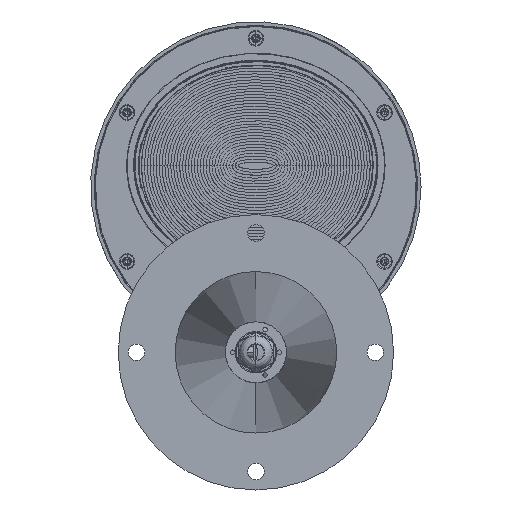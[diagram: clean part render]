
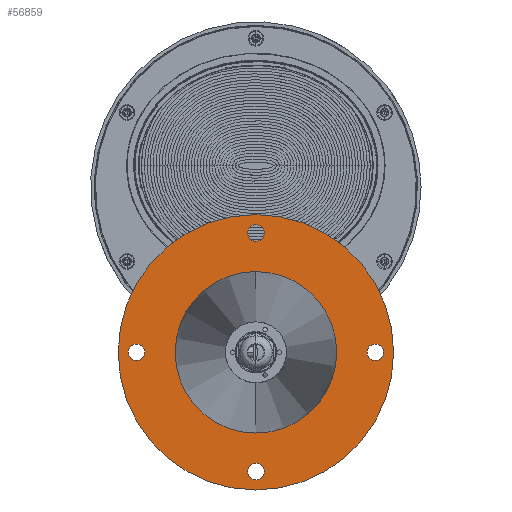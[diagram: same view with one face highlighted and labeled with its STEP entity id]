
A CAD part, front view. The second image highlights one B-rep face of the part: STEP entity #56859.
In plain terms, the highlighted planar face has unit normal (0, -1, 0) as drawn and (0, 0, -1) by its records, which use the part's own axes.
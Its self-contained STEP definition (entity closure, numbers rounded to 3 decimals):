
#56602=CARTESIAN_POINT('',(0.,0.,-457.983));
#56603=DIRECTION('',(0.,0.,-1.));
#56604=DIRECTION('',(1.,0.,0.));
#56605=AXIS2_PLACEMENT_3D('',#56602,#56603,#56604);
#56607=CARTESIAN_POINT('',(0.,0.,-457.983));
#56608=DIRECTION('',(0.,0.,-1.));
#56609=DIRECTION('',(-1.,0.,0.));
#56610=AXIS2_PLACEMENT_3D('',#56607,#56608,#56609);
#56612=CARTESIAN_POINT('',(0.,0.,-457.983));
#56613=DIRECTION('',(0.,0.,1.));
#56614=DIRECTION('',(-1.,0.,0.));
#56615=AXIS2_PLACEMENT_3D('',#56612,#56613,#56614);
#56617=CARTESIAN_POINT('',(0.,0.,-457.983));
#56618=DIRECTION('',(0.,0.,1.));
#56619=DIRECTION('',(1.,0.,0.));
#56620=AXIS2_PLACEMENT_3D('',#56617,#56618,#56619);
#56622=CARTESIAN_POINT('',(65.,0.,-457.983));
#56623=DIRECTION('',(0.,0.,1.));
#56624=DIRECTION('',(1.,0.,0.));
#56625=AXIS2_PLACEMENT_3D('',#56622,#56623,#56624);
#56627=CARTESIAN_POINT('',(65.,0.,-457.983));
#56628=DIRECTION('',(0.,0.,1.));
#56629=DIRECTION('',(-1.,0.,0.));
#56630=AXIS2_PLACEMENT_3D('',#56627,#56628,#56629);
#56632=CARTESIAN_POINT('',(0.,65.,-457.983));
#56633=DIRECTION('',(0.,0.,1.));
#56634=DIRECTION('',(1.,0.,0.));
#56635=AXIS2_PLACEMENT_3D('',#56632,#56633,#56634);
#56637=CARTESIAN_POINT('',(0.,65.,-457.983));
#56638=DIRECTION('',(0.,0.,1.));
#56639=DIRECTION('',(-1.,0.,0.));
#56640=AXIS2_PLACEMENT_3D('',#56637,#56638,#56639);
#56642=CARTESIAN_POINT('',(-65.,0.,-457.983));
#56643=DIRECTION('',(0.,0.,1.));
#56644=DIRECTION('',(1.,0.,0.));
#56645=AXIS2_PLACEMENT_3D('',#56642,#56643,#56644);
#56647=CARTESIAN_POINT('',(-65.,0.,-457.983));
#56648=DIRECTION('',(0.,0.,1.));
#56649=DIRECTION('',(-1.,0.,0.));
#56650=AXIS2_PLACEMENT_3D('',#56647,#56648,#56649);
#56652=CARTESIAN_POINT('',(0.,-65.,-457.983));
#56653=DIRECTION('',(0.,0.,1.));
#56654=DIRECTION('',(1.,0.,0.));
#56655=AXIS2_PLACEMENT_3D('',#56652,#56653,#56654);
#56657=CARTESIAN_POINT('',(0.,-65.,-457.983));
#56658=DIRECTION('',(0.,0.,1.));
#56659=DIRECTION('',(-1.,0.,0.));
#56660=AXIS2_PLACEMENT_3D('',#56657,#56658,#56659);
#56774=CARTESIAN_POINT('',(-75.,0.,-457.983));
#56775=CARTESIAN_POINT('',(75.,0.,-457.983));
#56776=VERTEX_POINT('',#56774);
#56777=VERTEX_POINT('',#56775);
#56782=CARTESIAN_POINT('',(-43.996,0.,-457.983));
#56783=VERTEX_POINT('',#56782);
#56784=CARTESIAN_POINT('',(43.996,0.,-457.983));
#56785=VERTEX_POINT('',#56784);
#56802=CARTESIAN_POINT('',(69.5,0.,-457.983));
#56803=CARTESIAN_POINT('',(60.5,0.,-457.983));
#56804=VERTEX_POINT('',#56802);
#56805=VERTEX_POINT('',#56803);
#56806=CARTESIAN_POINT('',(4.5,65.,-457.983));
#56807=CARTESIAN_POINT('',(-4.5,65.,-457.983));
#56808=VERTEX_POINT('',#56806);
#56809=VERTEX_POINT('',#56807);
#56810=CARTESIAN_POINT('',(-60.5,0.,-457.983));
#56811=CARTESIAN_POINT('',(-69.5,0.,-457.983));
#56812=VERTEX_POINT('',#56810);
#56813=VERTEX_POINT('',#56811);
#56814=CARTESIAN_POINT('',(4.5,-65.,-457.983));
#56815=CARTESIAN_POINT('',(-4.5,-65.,-457.983));
#56816=VERTEX_POINT('',#56814);
#56817=VERTEX_POINT('',#56815);
#56818=CARTESIAN_POINT('',(0.,0.,-457.983));
#56819=DIRECTION('',(0.,0.,-1.));
#56820=DIRECTION('',(-1.,0.,0.));
#56821=AXIS2_PLACEMENT_3D('',#56818,#56819,#56820);
#56822=PLANE('',#56821);
#56824=ORIENTED_EDGE('',*,*,#56823,.F.);
#56826=ORIENTED_EDGE('',*,*,#56825,.F.);
#56827=EDGE_LOOP('',(#56824,#56826));
#56828=FACE_OUTER_BOUND('',#56827,.F.);
#56830=ORIENTED_EDGE('',*,*,#56829,.F.);
#56832=ORIENTED_EDGE('',*,*,#56831,.F.);
#56833=EDGE_LOOP('',(#56830,#56832));
#56834=FACE_BOUND('',#56833,.F.);
#56836=ORIENTED_EDGE('',*,*,#56835,.F.);
#56838=ORIENTED_EDGE('',*,*,#56837,.F.);
#56839=EDGE_LOOP('',(#56836,#56838));
#56840=FACE_BOUND('',#56839,.F.);
#56842=ORIENTED_EDGE('',*,*,#56841,.F.);
#56844=ORIENTED_EDGE('',*,*,#56843,.F.);
#56845=EDGE_LOOP('',(#56842,#56844));
#56846=FACE_BOUND('',#56845,.F.);
#56848=ORIENTED_EDGE('',*,*,#56847,.F.);
#56850=ORIENTED_EDGE('',*,*,#56849,.F.);
#56851=EDGE_LOOP('',(#56848,#56850));
#56852=FACE_BOUND('',#56851,.F.);
#56854=ORIENTED_EDGE('',*,*,#56853,.F.);
#56856=ORIENTED_EDGE('',*,*,#56855,.F.);
#56857=EDGE_LOOP('',(#56854,#56856));
#56858=FACE_BOUND('',#56857,.F.);
#56859=ADVANCED_FACE('',(#56828,#56834,#56840,#56846,#56852,#56858),#56822,.T.);
#56606=CIRCLE('',#56605,75.);
#56611=CIRCLE('',#56610,75.);
#56616=CIRCLE('',#56615,43.996);
#56621=CIRCLE('',#56620,43.996);
#56626=CIRCLE('',#56625,4.5);
#56631=CIRCLE('',#56630,4.5);
#56636=CIRCLE('',#56635,4.5);
#56641=CIRCLE('',#56640,4.5);
#56646=CIRCLE('',#56645,4.5);
#56651=CIRCLE('',#56650,4.5);
#56656=CIRCLE('',#56655,4.5);
#56661=CIRCLE('',#56660,4.5);
#56823=EDGE_CURVE('',#56777,#56776,#56606,.T.);
#56825=EDGE_CURVE('',#56776,#56777,#56611,.T.);
#56829=EDGE_CURVE('',#56783,#56785,#56616,.T.);
#56831=EDGE_CURVE('',#56785,#56783,#56621,.T.);
#56835=EDGE_CURVE('',#56804,#56805,#56626,.T.);
#56837=EDGE_CURVE('',#56805,#56804,#56631,.T.);
#56841=EDGE_CURVE('',#56808,#56809,#56636,.T.);
#56843=EDGE_CURVE('',#56809,#56808,#56641,.T.);
#56847=EDGE_CURVE('',#56812,#56813,#56646,.T.);
#56849=EDGE_CURVE('',#56813,#56812,#56651,.T.);
#56853=EDGE_CURVE('',#56816,#56817,#56656,.T.);
#56855=EDGE_CURVE('',#56817,#56816,#56661,.T.);
